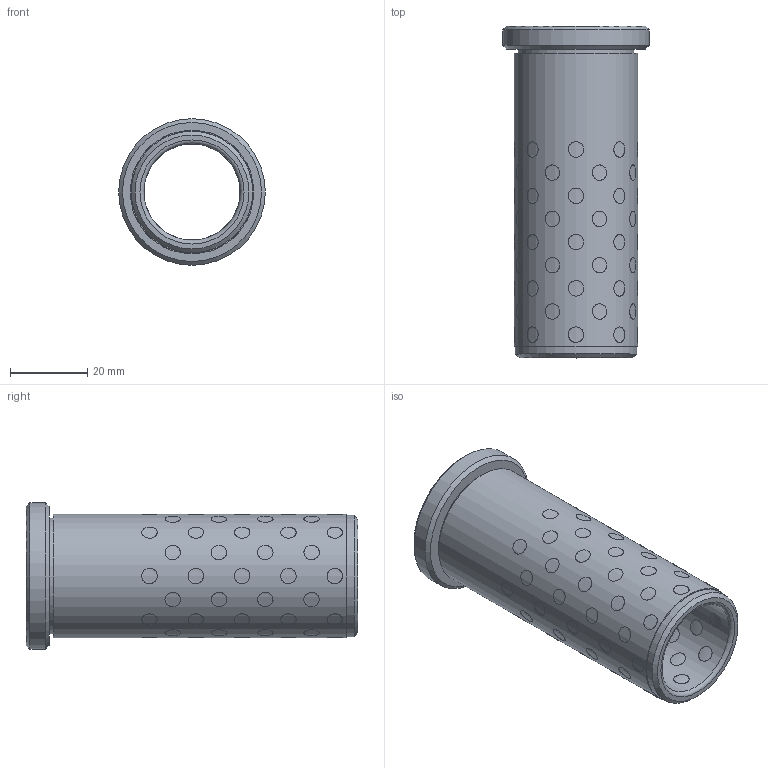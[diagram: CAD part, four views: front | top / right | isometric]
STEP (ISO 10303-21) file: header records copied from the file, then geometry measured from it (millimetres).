
FILE_DESCRIPTION( ( 'STEP AP203' ), '1' );
FILE_NAME( 'D:/Cuma/D30.05/D30.05_2586.step', '2003-01-20T18:31:59', ( ' ' ), ( ' ' ), 'XStep 1.0', ' ', ' ' );
FILE_SCHEMA( ( 'CONFIG_CONTROL_DESIGN' ) );
Length unit declared in the file: metre
Products named in the file (89): 1; 2; 3; 4; 5; 6; 7; 8; 9; 10; 11; 12; 13; 14; 15; 16; 17; 18; 19; 20; 21; 22; 23; 24; 25; 26; 27; 28; 29; 30; 31; 32; 33; 34; 35; 36; 37; 38; 39; 40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
Bounding box: 38 x 86 x 38 mm (x, y, z)
Volume: 32294.6 mm3; surface area: 22758.7 mm2
Topology: 89 solids, 89 shells, 279 faces, 289 edges, 191 vertices
Faces by surface type: cylinder 269, plane 5, cone 3, torus 2
Full cylindrical faces by diameter (mm): 4 x88, 25 x1, 30 x1, 31.5 x1, 32 x1, 38 x1
Entity records: 17601 total; most frequent: CARTESIAN_POINT 10254, DIRECTION 766, CC_DESIGN_PERSON_AND_ORGANIZATION_ASSIGNMENT 445, AXIS2_PLACEMENT_3D 383, EDGE_LOOP 382, ORIENTED_EDGE 382, FACE_OUTER_BOUND 374, PERSON_AND_ORGANIZATION_ROLE 356
